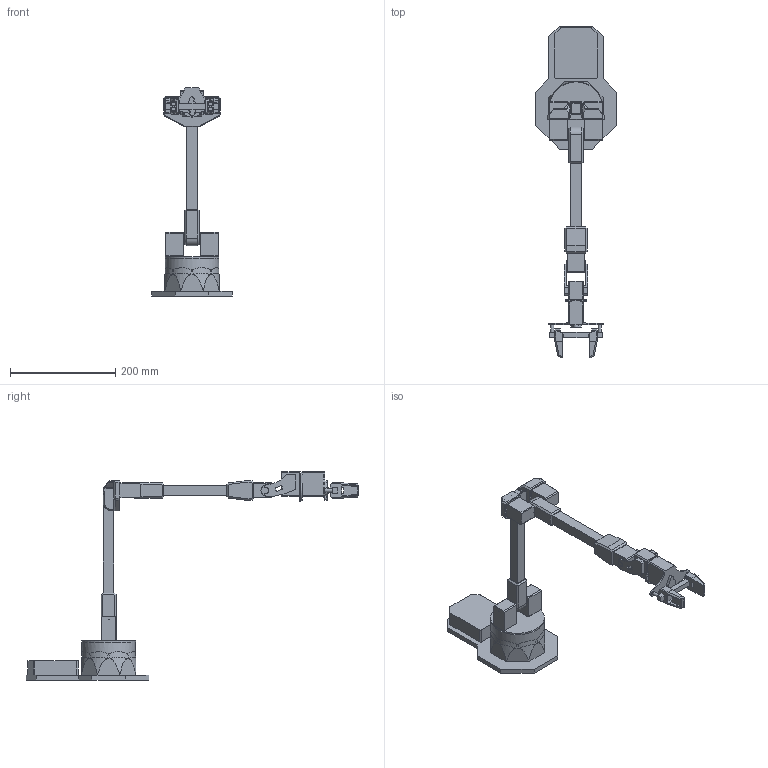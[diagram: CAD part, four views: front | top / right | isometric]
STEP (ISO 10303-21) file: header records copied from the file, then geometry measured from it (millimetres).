
FILE_DESCRIPTION(/* description */ (''),/* implementation_level */ '2;1');
FILE_NAME(/* name */ 'C:/Users/setup/Desktop/SOLIDS/6 - WXA-250-M/6 - WXA-250-M.step',/* time_stamp */ '2019-01-22T18:06:07-06:00',/* author */ ('wadecore'),/* organization */ (''),/* preprocessor_version */ 'ST-DEVELOPER v17.2',/* originating_system */ 'Autodesk Translation Framework v7.6.0.251',/* authorisation */ '');
FILE_SCHEMA (('AUTOMOTIVE_DESIGN { 1 0 10303 214 3 1 1 }'));
Length unit declared in the file: millimetre
Products named in the file (8): 6 - WXA-250-M; 430 Base; 430 Dual Shoulder; UA - 6 - WX-250; Fore - 6 - WX-250; 430 - Wrist; SRG; SRG Carriage With Finger
Assembly tree (8 placements, depth 2):
  6 - WXA-250-M
    430 Base
    430 Dual Shoulder
    UA - 6 - WX-250
    Fore - 6 - WX-250
    430 - Wrist
    SRG
    SRG Carriage With Finger  x2
Bounding box: 153.07 x 630.9 x 395.5 mm (x, y, z)
Volume: 1737192.8 mm3; surface area: 248221.7 mm2
Topology: 8 solids, 15 shells, 729 faces, 1850 edges, 1175 vertices
Faces by surface type: plane 537, cylinder 135, bspline 26, cone 22, sphere 6, torus 3
Full cylindrical faces by diameter (mm): 2.1 x4, 3.8 x4, 4.9 x2, 6.3 x2, 12 x2, 20.5 x6, 40 x1, 62 x1, 96 x1, 102 x1, 102.181 x1
Entity records: 20794 total; most frequent: CARTESIAN_POINT 4304, ORIENTED_EDGE 3386, DIRECTION 3307, EDGE_CURVE 1693, LINE 1281, VECTOR 1281, VERTEX_POINT 1071, AXIS2_PLACEMENT_3D 1013
